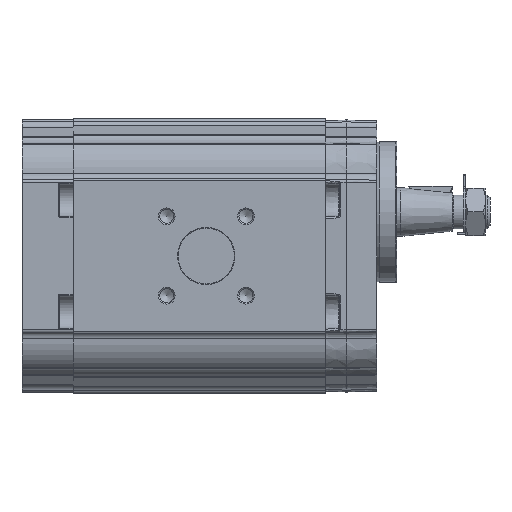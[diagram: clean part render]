
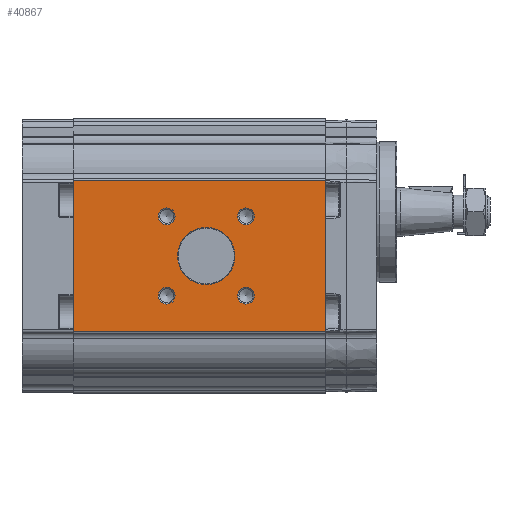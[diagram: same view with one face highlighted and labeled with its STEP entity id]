
A CAD part, left-side view. The second image highlights one B-rep face of the part: STEP entity #40867.
In plain terms, the highlighted planar face has unit normal (-1, 0, 0).
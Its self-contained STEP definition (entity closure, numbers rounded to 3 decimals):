
#2124=PLANE('',#43668);
#3308=CIRCLE('',#43669,10.2);
#3309=CIRCLE('',#43670,3.);
#3310=CIRCLE('',#43671,3.);
#3311=CIRCLE('',#43672,3.);
#3312=CIRCLE('',#43673,3.);
#9359=ORIENTED_EDGE('',*,*,#15058,.T.);
#9360=ORIENTED_EDGE('',*,*,#15059,.T.);
#9361=ORIENTED_EDGE('',*,*,#15060,.T.);
#9362=ORIENTED_EDGE('',*,*,#15061,.T.);
#9363=ORIENTED_EDGE('',*,*,#15062,.T.);
#9364=ORIENTED_EDGE('',*,*,#15063,.F.);
#9365=ORIENTED_EDGE('',*,*,#15064,.F.);
#9366=ORIENTED_EDGE('',*,*,#15065,.T.);
#9367=ORIENTED_EDGE('',*,*,#15066,.T.);
#15058=EDGE_CURVE('',#18234,#18234,#3308,.F.);
#15059=EDGE_CURVE('',#18235,#18235,#3309,.F.);
#15060=EDGE_CURVE('',#18236,#18236,#3310,.F.);
#15061=EDGE_CURVE('',#18237,#18237,#3311,.F.);
#15062=EDGE_CURVE('',#18238,#18238,#3312,.F.);
#15063=EDGE_CURVE('',#18239,#18240,#20182,.T.);
#15064=EDGE_CURVE('',#18241,#18239,#20183,.T.);
#15065=EDGE_CURVE('',#18241,#18242,#20184,.T.);
#15066=EDGE_CURVE('',#18242,#18240,#20185,.T.);
#18234=VERTEX_POINT('',#68861);
#18235=VERTEX_POINT('',#68863);
#18236=VERTEX_POINT('',#68865);
#18237=VERTEX_POINT('',#68867);
#18238=VERTEX_POINT('',#68869);
#18239=VERTEX_POINT('',#68871);
#18240=VERTEX_POINT('',#68872);
#18241=VERTEX_POINT('',#68874);
#18242=VERTEX_POINT('',#68876);
#20182=LINE('',#68870,#21814);
#20183=LINE('',#68873,#21815);
#20184=LINE('',#68875,#21816);
#20185=LINE('',#68877,#21817);
#21814=VECTOR('',#50085,1000.);
#21815=VECTOR('',#50086,1000.);
#21816=VECTOR('',#50087,1000.);
#21817=VECTOR('',#50088,1000.);
#23808=EDGE_LOOP('',(#9359));
#23809=EDGE_LOOP('',(#9360));
#23810=EDGE_LOOP('',(#9361));
#23811=EDGE_LOOP('',(#9362));
#23812=EDGE_LOOP('',(#9363));
#23813=EDGE_LOOP('',(#9364,#9365,#9366,#9367));
#25861=FACE_BOUND('',#23808,.T.);
#25862=FACE_BOUND('',#23809,.T.);
#25863=FACE_BOUND('',#23810,.T.);
#25864=FACE_BOUND('',#23811,.T.);
#25865=FACE_BOUND('',#23812,.T.);
#25866=FACE_BOUND('',#23813,.T.);
#40867=ADVANCED_FACE('',(#25861,#25862,#25863,#25864,#25865,#25866),#2124,
 .T.);
#43668=AXIS2_PLACEMENT_3D('',#68859,#50073,#50074);
#43669=AXIS2_PLACEMENT_3D('',#68860,#50075,#50076);
#43670=AXIS2_PLACEMENT_3D('',#68862,#50077,#50078);
#43671=AXIS2_PLACEMENT_3D('',#68864,#50079,#50080);
#43672=AXIS2_PLACEMENT_3D('',#68866,#50081,#50082);
#43673=AXIS2_PLACEMENT_3D('',#68868,#50083,#50084);
#50073=DIRECTION('',(-1.,0.,0.));
#50074=DIRECTION('',(0.,0.,1.));
#50075=DIRECTION('',(-1.,0.,0.));
#50076=DIRECTION('',(0.,0.,1.));
#50077=DIRECTION('',(-1.,0.,0.));
#50078=DIRECTION('',(0.,0.,1.));
#50079=DIRECTION('',(-1.,0.,0.));
#50080=DIRECTION('',(0.,0.,1.));
#50081=DIRECTION('',(-1.,0.,0.));
#50082=DIRECTION('',(0.,0.,1.));
#50083=DIRECTION('',(-1.,0.,0.));
#50084=DIRECTION('',(0.,0.,1.));
#50085=DIRECTION('',(0.,0.,-1.));
#50086=DIRECTION('',(0.,-1.,0.));
#50087=DIRECTION('',(0.,0.,-1.));
#50088=DIRECTION('',(0.,-1.,0.));
#68859=CARTESIAN_POINT('',(-43.,90.,27.048));
#68860=CARTESIAN_POINT('',(-43.,42.5,0.));
#68861=CARTESIAN_POINT('',(-43.,42.5,10.2));
#68862=CARTESIAN_POINT('',(-43.,56.642,-14.142));
#68863=CARTESIAN_POINT('',(-43.,56.642,-11.142));
#68864=CARTESIAN_POINT('',(-43.,56.642,14.142));
#68865=CARTESIAN_POINT('',(-43.,56.642,17.142));
#68866=CARTESIAN_POINT('',(-43.,28.358,14.142));
#68867=CARTESIAN_POINT('',(-43.,28.358,17.142));
#68868=CARTESIAN_POINT('',(-43.,28.358,-14.142));
#68869=CARTESIAN_POINT('',(-43.,28.358,-11.142));
#68870=CARTESIAN_POINT('',(-43.,0.,27.048));
#68871=CARTESIAN_POINT('',(-43.,0.,27.048));
#68872=CARTESIAN_POINT('',(-43.,0.,-27.048));
#68873=CARTESIAN_POINT('',(-43.,90.,27.048));
#68874=CARTESIAN_POINT('',(-43.,90.,27.048));
#68875=CARTESIAN_POINT('',(-43.,90.,27.048));
#68876=CARTESIAN_POINT('',(-43.,90.,-27.048));
#68877=CARTESIAN_POINT('',(-43.,90.,-27.048));
